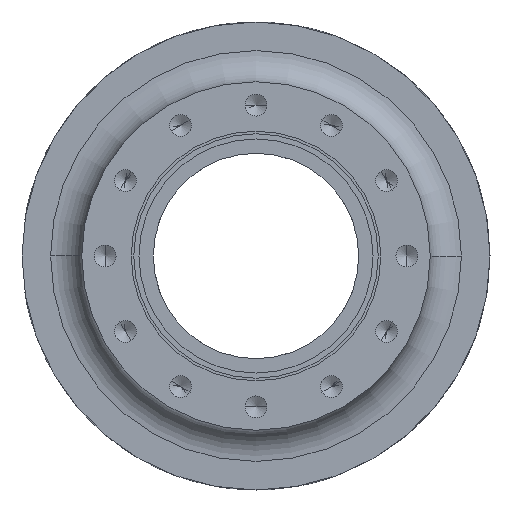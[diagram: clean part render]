
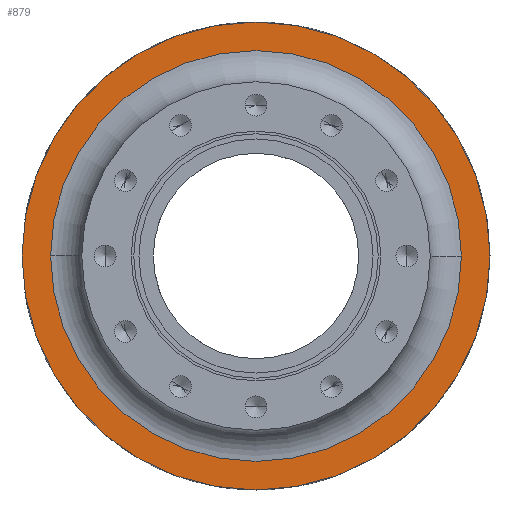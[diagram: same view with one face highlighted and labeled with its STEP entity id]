
A CAD part, left-side view. The second image highlights one B-rep face of the part: STEP entity #879.
In plain terms, the highlighted planar face has unit normal (-1, 0, 0).
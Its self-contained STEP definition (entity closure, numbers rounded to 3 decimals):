
#75 = AXIS2_PLACEMENT_3D ( 'NONE', #2753, #3762, #1830 ) ;
#93 = DIRECTION ( 'NONE',  ( 0., -1., 0. ) ) ;
#114 = CARTESIAN_POINT ( 'NONE',  ( 0., -39.5, 0. ) ) ;
#179 = AXIS2_PLACEMENT_3D ( 'NONE', #770, #3010, #1082 ) ;
#770 = CARTESIAN_POINT ( 'NONE',  ( 0., 0., 0. ) ) ;
#879 = ADVANCED_FACE ( 'NONE', ( #3885, #1715 ), #3121, .T. ) ;
#908 = ORIENTED_EDGE ( 'NONE', *, *, #1954, .T. ) ;
#988 = DIRECTION ( 'NONE',  ( 1., 0., 0. ) ) ;
#1050 = CIRCLE ( 'NONE', #1080, 45. ) ;
#1079 = DIRECTION ( 'NONE',  ( 1., 0., 0. ) ) ;
#1080 = AXIS2_PLACEMENT_3D ( 'NONE', #2900, #988, #3244 ) ;
#1082 = DIRECTION ( 'NONE',  ( 0., -1., 0. ) ) ;
#1460 = CIRCLE ( 'NONE', #2403, 39.5 ) ;
#1522 = EDGE_LOOP ( 'NONE', ( #1782, #2822 ) ) ;
#1646 = VERTEX_POINT ( 'NONE', #1729 ) ;
#1715 = FACE_OUTER_BOUND ( 'NONE', #1522, .T. ) ;
#1729 = CARTESIAN_POINT ( 'NONE',  ( 0., -45., 0. ) ) ;
#1782 = ORIENTED_EDGE ( 'NONE', *, *, #2562, .F. ) ;
#1830 = DIRECTION ( 'NONE',  ( 0., -1., 0. ) ) ;
#1872 = EDGE_CURVE ( 'NONE', #3854, #2176, #1460, .T. ) ;
#1911 = CIRCLE ( 'NONE', #179, 39.5 ) ;
#1949 = CIRCLE ( 'NONE', #2918, 45. ) ;
#1954 = EDGE_CURVE ( 'NONE', #2176, #3854, #1911, .T. ) ;
#2007 = DIRECTION ( 'NONE',  ( 1., 0., 0. ) ) ;
#2163 = CARTESIAN_POINT ( 'NONE',  ( 0., 39.5, 0. ) ) ;
#2176 = VERTEX_POINT ( 'NONE', #2163 ) ;
#2403 = AXIS2_PLACEMENT_3D ( 'NONE', #3932, #2007, #93 ) ;
#2483 = ORIENTED_EDGE ( 'NONE', *, *, #1872, .T. ) ;
#2562 = EDGE_CURVE ( 'NONE', #2930, #1646, #1050, .T. ) ;
#2753 = CARTESIAN_POINT ( 'NONE',  ( 0., 45., 0. ) ) ;
#2822 = ORIENTED_EDGE ( 'NONE', *, *, #3866, .F. ) ;
#2900 = CARTESIAN_POINT ( 'NONE',  ( 0., 0., 0. ) ) ;
#2918 = AXIS2_PLACEMENT_3D ( 'NONE', #3006, #1079, #3341 ) ;
#2930 = VERTEX_POINT ( 'NONE', #2972 ) ;
#2972 = CARTESIAN_POINT ( 'NONE',  ( 0., 45., 0. ) ) ;
#3006 = CARTESIAN_POINT ( 'NONE',  ( 0., 0., 0. ) ) ;
#3010 = DIRECTION ( 'NONE',  ( 1., 0., 0. ) ) ;
#3121 = PLANE ( 'NONE',  #75 ) ;
#3244 = DIRECTION ( 'NONE',  ( 0., 1., 0. ) ) ;
#3341 = DIRECTION ( 'NONE',  ( 0., 1., 0. ) ) ;
#3762 = DIRECTION ( 'NONE',  ( -1., 0., 0. ) ) ;
#3854 = VERTEX_POINT ( 'NONE', #114 ) ;
#3866 = EDGE_CURVE ( 'NONE', #1646, #2930, #1949, .T. ) ;
#3885 = FACE_BOUND ( 'NONE', #4139, .T. ) ;
#3932 = CARTESIAN_POINT ( 'NONE',  ( 0., 0., 0. ) ) ;
#4139 = EDGE_LOOP ( 'NONE', ( #2483, #908 ) ) ;
